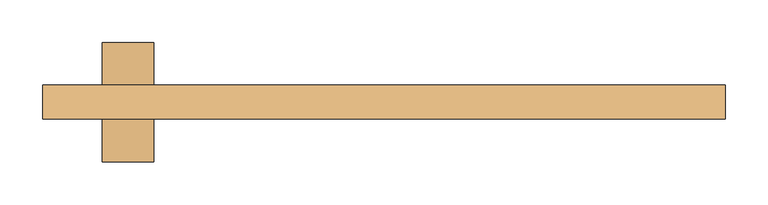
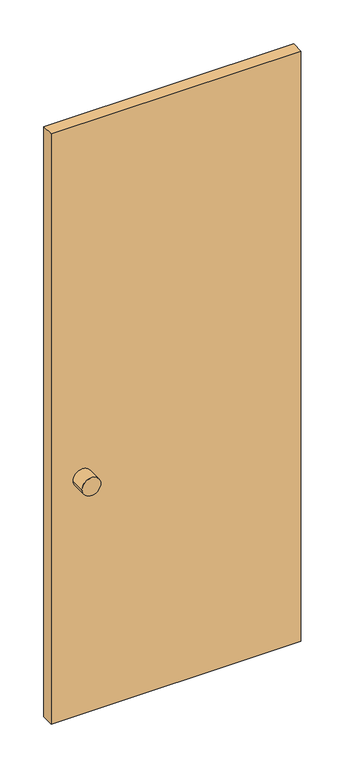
"""IFC4 building model written with IfcOpenShell, lengths in millimetres: door geometry, 営_片開き扉 : LD11 850*2000."""

import ifcopenshell
import ifcopenshell.guid

model = None  # the IFC model being written
_history = None  # IfcOwnerHistory: only IFC2X3 demands one
_inside = {}  # id of a spatial element -> (the spatial element, [elements in it])
_under = {}  # id of a project, library or spatial element -> (it, [spatial elements below it])
_declared = {}  # id of a project -> (the project, [libraries it declares])
_typed = {}  # id of a type object -> (the type object, [elements of that type])
_made_of = {}  # id of a material, layer set ... -> (it, [elements and type objects made of it])


def new_model(schema):
    """Start an empty IFC model of exactly this schema.

    Asked for "IFC4X3", IfcOpenShell would pick the latest addendum, in which some entities
    have other attributes; the version numbers below select the first issue.
    IFC2X3 requires an IfcOwnerHistory on every rooted entity: one is made here for all.
    """
    global model, _history
    if schema == "IFC4X3":
        model = ifcopenshell.file(schema_version=(4, 3, 0, 0))
    else:
        model = ifcopenshell.file(schema=schema)
    _inside.clear()
    _under.clear()
    _declared.clear()
    _typed.clear()
    _made_of.clear()
    _history = None
    if model.schema == "IFC2X3":
        org = make("IfcOrganization", Name="unknown")
        user = make(
            "IfcPersonAndOrganization",
            ThePerson=make("IfcPerson", FamilyName="unknown"),
            TheOrganization=org,
        )
        app = make(
            "IfcApplication",
            ApplicationDeveloper=org,
            Version="unknown",
            ApplicationFullName="unknown",
            ApplicationIdentifier="unknown",
        )
        _history = make(
            "IfcOwnerHistory",
            OwningUser=user,
            OwningApplication=app,
            ChangeAction="ADDED",
            CreationDate=0,
        )
    return model


def make(cls, **values):
    """One entity of the class cls with the attributes given. An attribute that is None is left unset."""
    return model.create_entity(
        cls, **{name: value for name, value in values.items() if value is not None}
    )


def rooted(cls, **values):
    """An entity with a GlobalId (a new one), such as an element, a storey or a relation."""
    return make(cls, GlobalId=ifcopenshell.guid.new(), OwnerHistory=_history, **values)


def si_unit(unit_type, name, prefix=None):
    """IfcSIUnit, for example si_unit("LENGTHUNIT", "METRE", prefix="MILLI")."""
    return make("IfcSIUnit", UnitType=unit_type, Prefix=prefix, Name=name)


def assignment(units):
    """IfcUnitAssignment: the units of a project."""
    return None if units is None else make("IfcUnitAssignment", Units=units)


def point(xyz):
    """IfcCartesianPoint."""
    return None if xyz is None else make("IfcCartesianPoint", Coordinates=xyz)


def direction(xyz):
    """IfcDirection."""
    return None if xyz is None else make("IfcDirection", DirectionRatios=xyz)


def frame(location, z_axis=None, x_axis=None):
    """IfcAxis2Placement3D, a coordinate frame: its origin and axes. An axis left out is left unset."""
    return make(
        "IfcAxis2Placement3D",
        Location=point(location),
        Axis=direction(z_axis),
        RefDirection=direction(x_axis),
    )


def frame_2d(location, x_axis=None):
    """IfcAxis2Placement2D, a coordinate frame in the plane: its origin and x axis."""
    return make(
        "IfcAxis2Placement2D", Location=point(location), RefDirection=direction(x_axis)
    )


def origin():
    """The frame at (0, 0, 0) with its axes left unset."""
    return frame((0.0, 0.0, 0.0))


def origin_with_axes():
    """The frame at (0, 0, 0) with the z axis (0, 0, 1) and the x axis (1, 0, 0) written out."""
    return frame((0.0, 0.0, 0.0), z_axis=(0.0, 0.0, 1.0), x_axis=(1.0, 0.0, 0.0))


def place(relative_to, where):
    """IfcLocalPlacement: puts the frame where relative to a parent placement (None: the world)."""
    return make(
        "IfcLocalPlacement", PlacementRelTo=relative_to, RelativePlacement=where
    )


def context(
    kind, dimensions, precision=None, world=None, true_north=None, identifier=None
):
    """IfcGeometricRepresentationContext, for example the 3D "Model" context."""
    return make(
        "IfcGeometricRepresentationContext",
        ContextIdentifier=identifier,
        ContextType=kind,
        CoordinateSpaceDimension=dimensions,
        Precision=precision,
        WorldCoordinateSystem=world,
        TrueNorth=true_north,
    )


def project(units=None, contexts=None):
    """IfcProject with its units and contexts."""
    return rooted(
        "IfcProject",
        Name="project",
        RepresentationContexts=contexts,
        UnitsInContext=assignment(units),
    )


def spatial(cls, under=None, at=None, **own):
    """A site, building, storey or space (cls), placed at a placement, below another one or the project."""
    s = rooted(cls, ObjectPlacement=at, **own)
    if under is not None:
        _under.setdefault(under.id(), (under, []))[1].append(s)
    return s


def polyline(points):
    """IfcPolyline through the points."""
    return make("IfcPolyline", Points=[point(p) for p in points])


def circle_curve(where, radius):
    """IfcCircle in the frame where."""
    return make("IfcCircle", Position=where, Radius=radius)


def trimmed(basis, trim1, trim2, sense, master):
    """IfcTrimmedCurve: the piece of a basis curve between two trims."""
    return make(
        "IfcTrimmedCurve",
        BasisCurve=basis,
        Trim1=trim1,
        Trim2=trim2,
        SenseAgreement=sense,
        MasterRepresentation=master,
    )


def segment(curve, same_sense, transition):
    """IfcCompositeCurveSegment."""
    return make(
        "IfcCompositeCurveSegment",
        Transition=transition,
        SameSense=same_sense,
        ParentCurve=curve,
    )


def composite_curve(segments, self_intersect=None):
    """IfcCompositeCurve: segments joined end to end."""
    return make("IfcCompositeCurve", Segments=segments, SelfIntersect=self_intersect)


def outline(outer, holes=None, kind="AREA"):
    """IfcArbitraryClosedProfileDef: a profile drawn as a closed curve; with holes, ...WithVoids."""
    if holes is None:
        return make("IfcArbitraryClosedProfileDef", ProfileType=kind, OuterCurve=outer)
    return make(
        "IfcArbitraryProfileDefWithVoids",
        ProfileType=kind,
        OuterCurve=outer,
        InnerCurves=holes,
    )


def extrude(swept, where, along, depth):
    """IfcExtrudedAreaSolid: the profile swept, set in the frame where, extruded along a direction by depth."""
    return make(
        "IfcExtrudedAreaSolid",
        SweptArea=swept,
        Position=where,
        ExtrudedDirection=direction(along),
        Depth=depth,
    )


def shape(context_of_items, identifier, shape_type, items):
    """IfcShapeRepresentation: the items that make up one representation, for example the "Body"."""
    return make(
        "IfcShapeRepresentation",
        ContextOfItems=context_of_items,
        RepresentationIdentifier=identifier,
        RepresentationType=shape_type,
        Items=items,
    )


def source(mapping_origin, context_of_items, identifier, shape_type, items):
    """IfcRepresentationMap: a shape defined once, which mapped items show again and again."""
    return make(
        "IfcRepresentationMap",
        MappingOrigin=mapping_origin,
        MappedRepresentation=shape(context_of_items, identifier, shape_type, items),
    )


def transform(
    local_origin,
    x_axis=None,
    y_axis=None,
    z_axis=None,
    scale=None,
    scale2=None,
    scale3=None,
    uniform=True,
):
    """IfcCartesianTransformationOperator3D, or its non-uniform kind. x_axis, y_axis, z_axis: its Axis1, 2, 3."""
    if uniform:
        return make(
            "IfcCartesianTransformationOperator3D",
            Axis1=direction(x_axis),
            Axis2=direction(y_axis),
            LocalOrigin=point(local_origin),
            Scale=scale,
            Axis3=direction(z_axis),
        )
    return make(
        "IfcCartesianTransformationOperator3DnonUniform",
        Axis1=direction(x_axis),
        Axis2=direction(y_axis),
        LocalOrigin=point(local_origin),
        Scale=scale,
        Axis3=direction(z_axis),
        Scale2=scale2,
        Scale3=scale3,
    )


def mapped(mapping_source, mapping_target):
    """IfcMappedItem: shows the shape of a source again, moved by a transform."""
    return make(
        "IfcMappedItem", MappingSource=mapping_source, MappingTarget=mapping_target
    )


def made_of(thing, what):
    """Note that an element or type object is made of a material, layer set ...; save() writes the relation."""
    if what is not None:
        _made_of.setdefault(what.id(), (what, []))[1].append(thing)
    return thing


def element(
    cls,
    number,
    at=None,
    inside=None,
    cuts=None,
    type_object=None,
    material=None,
    context=None,
    identifier="Body",
    shape_type=None,
    held_by="IfcProductDefinitionShape",
    body=None,
    shapes=None,
    **own,
):
    """One element of the class cls, such as IfcWall. Its Tag is "e" and its number.

    at: its placement. inside: the storey or other place that contains it. cuts: it is an
    opening in that element (IfcRelVoidsElement). A single representation is given by context,
    identifier, shape_type and body (its items); several are given by shapes. held_by: the class
    of the entity that holds the representations. save() writes the other relations.
    """
    e = rooted(cls, Tag="e%d" % number, ObjectPlacement=at, **own)
    if body is not None:
        shapes = [shape(context, identifier, shape_type, body)]
    if shapes is not None:
        e.Representation = make(held_by, Representations=shapes)
    if inside is not None:
        _inside.setdefault(inside.id(), (inside, []))[1].append(e)
    if cuts is not None:
        rooted(
            "IfcRelVoidsElement", RelatingBuildingElement=cuts, RelatedOpeningElement=e
        )
    if type_object is not None:
        _typed.setdefault(type_object.id(), (type_object, []))[1].append(e)
    return made_of(e, material)


def aggregate(whole, parts):
    """IfcRelAggregates: a whole, such as a stair, and the parts it consists of."""
    return rooted("IfcRelAggregates", RelatingObject=whole, RelatedObjects=parts)


def save(model, path):
    """Write the relations noted so far, then the file.

    IfcRelAggregates (storeys below a building ...), IfcRelContainedInSpatialStructure (elements
    in a storey), IfcRelDefinesByType, IfcRelAssociatesMaterial and IfcRelDeclares: one each for
    every whole, place, type object, material and project.
    """
    for whole, parts in _under.values():
        aggregate(whole, parts)
    for where, things in _inside.values():
        rooted(
            "IfcRelContainedInSpatialStructure",
            RelatedElements=things,
            RelatingStructure=where,
        )
    for kind, things in _typed.values():
        rooted("IfcRelDefinesByType", RelatedObjects=things, RelatingType=kind)
    for what, things in _made_of.values():
        rooted("IfcRelAssociatesMaterial", RelatedObjects=things, RelatingMaterial=what)
    for by, libraries in _declared.values():
        rooted("IfcRelDeclares", RelatingContext=by, RelatedDefinitions=libraries)
    model.write(path)


def door_48d1ee04(model_context):
    return source(origin(), model_context, "Body", "SweptSolid", [
        extrude(outline(composite_curve([segment(trimmed(circle_curve(frame_2d((800.0, -300.0)), 30.0), [point((800.0, -270.0))], [point((800.0, -330.0))], False, "CARTESIAN"), True, "CONTINUOUS"), segment(trimmed(circle_curve(frame_2d((800.0, -300.0)), 30.0), [point((800.0, -330.0))], [point((800.0, -270.0))], False, "CARTESIAN"), True, "CONTINUOUS")], self_intersect=False)), frame((0.0, -15.0, 0.0), z_axis=(0.0, 1.0, 0.0), x_axis=(0.0, 0.0, 1.0)), (0.0, 0.0, 1.0), 50.0),
        extrude(outline(composite_curve([segment(trimmed(circle_curve(frame_2d((800.0, -300.0)), 30.0), [point((800.0, -270.0))], [point((800.0, -330.0))], False, "CARTESIAN"), True, "CONTINUOUS"), segment(trimmed(circle_curve(frame_2d((800.0, -300.0)), 30.0), [point((800.0, -330.0))], [point((800.0, -270.0))], False, "CARTESIAN"), True, "CONTINUOUS")], self_intersect=False)), frame((0.0, -105.0, 0.0), z_axis=(0.0, 1.0, 0.0), x_axis=(0.0, 0.0, 1.0)), (0.0, 0.0, 1.0), 50.0),
        extrude(outline(polyline([(-400.0, -15.0), (400.0, -15.0), (400.0, -55.0), (-400.0, -55.0), (-400.0, -15.0)])), origin_with_axes(), (0.0, 0.0, 1.0), 2000.0),
    ])


if __name__ == "__main__":
    model = new_model("IFC4")
    model_context = context("Model", 3, world=origin())
    ifc_project = project(units=[si_unit("LENGTHUNIT", "METRE", prefix="MILLI")], contexts=[model_context])
    site = spatial("IfcSite", under=ifc_project)
    building = spatial("IfcBuilding", under=site)
    placement = place(None, origin())
    door_shape = door_48d1ee04(model_context)
    element("IfcDoor", 1, ObjectType="営_片開き扉 : LD11 850*2000", at=placement, inside=building, context=model_context, shape_type="MappedRepresentation", body=[
        mapped(door_shape, transform((0.0, 0.0, 0.0), x_axis=(1.0, 0.0, 0.0), y_axis=(0.0, 1.0, 0.0), z_axis=(0.0, 0.0, 1.0))),
    ])
    save(model, "model.ifc")
